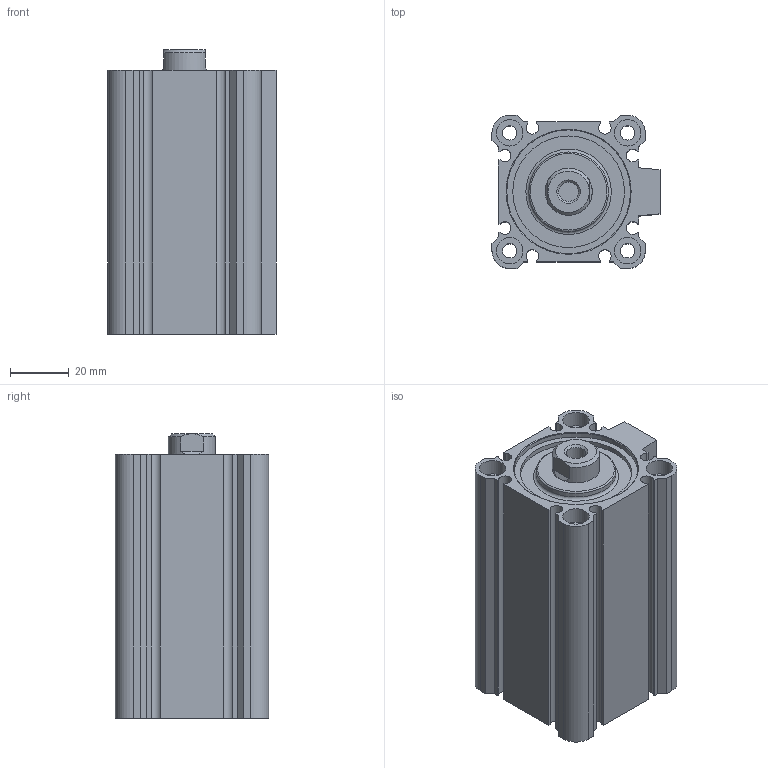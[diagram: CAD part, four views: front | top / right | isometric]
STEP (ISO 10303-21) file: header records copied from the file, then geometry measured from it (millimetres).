
FILE_DESCRIPTION( ( 'STEP AP214' ), '1' );
FILE_NAME( 'C:/Users/emc02044/Desktop/SQN SQN big size/SQN40X50-S.stp', '2026-07-29T02:03:05', ( 'License CC BY-ND 4.0' ), ( 'CADENAS' ), ' ', 'PARTsolutions', ' ' );
FILE_SCHEMA( ( 'AUTOMOTIVE_DESIGN { 1 0 10303 214 1 1 1 1 }' ) );
Length unit declared in the file: millimetre
Products named in the file (3): SQN40X50-S; _SQ40X50-S(0) ()_body; _SQ40X50-S(rod-0)
Assembly tree (2 placements, depth 2):
  SQN40X50-S
    _SQ40X50-S(0) ()_body
    _SQ40X50-S(rod-0)
Bounding box: 57 x 52 x 96.5 mm (x, y, z)
Volume: 145446.4 mm3; surface area: 58583.5 mm2
Topology: 2 solids, 2 shells, 137 faces, 310 edges, 203 vertices
Faces by surface type: plane 82, cylinder 43, cone 10, torus 2
Full cylindrical faces by diameter (mm): 4.917 x8, 5.5 x4, 6.647 x1, 8.566 x2, 9 x8, 16 x2, 27 x1, 37.9 x1, 40 x3, 42 x1
Entity records: 4800 total; most frequent: DIRECTION 644, CARTESIAN_POINT 636, ORIENTED_EDGE 534, EDGE_CURVE 267, AXIS2_PLACEMENT_3D 241, EDGE_LOOP 212, VERTEX_POINT 201, FACE_OUTER_BOUND 170
